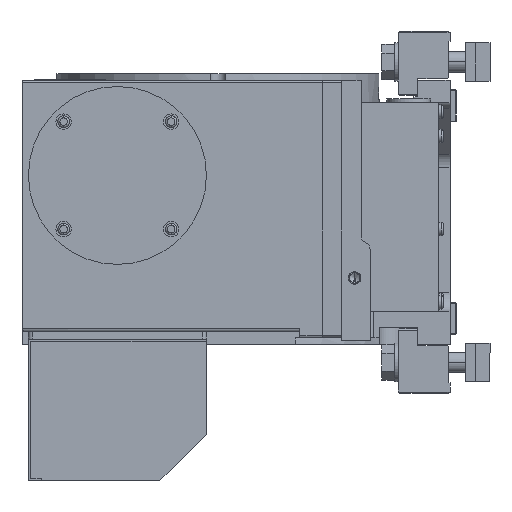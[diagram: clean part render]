
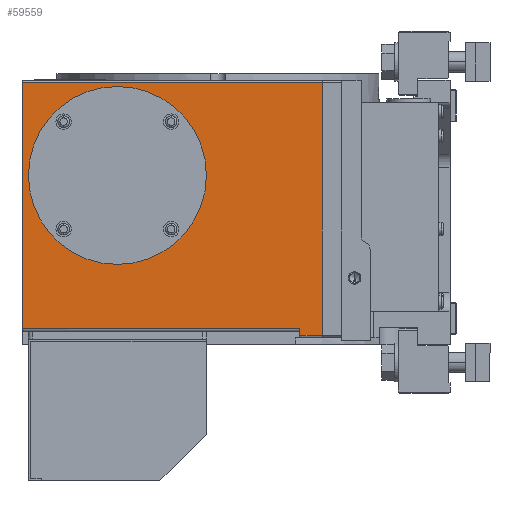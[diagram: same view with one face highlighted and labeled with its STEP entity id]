
A CAD part, left-side view. The second image highlights one B-rep face of the part: STEP entity #59559.
In plain terms, the highlighted planar face has unit normal (-1, 0, 0).
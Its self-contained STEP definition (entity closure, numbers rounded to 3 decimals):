
#628 = PLANE ( 'NONE',  #109375 ) ;
#1742 = ORIENTED_EDGE ( 'NONE', *, *, #90467, .F. ) ;
#3773 = VECTOR ( 'NONE', #64714, 1000. ) ;
#3989 = VECTOR ( 'NONE', #18380, 1000. ) ;
#4467 = CARTESIAN_POINT ( 'NONE',  ( -255., 17.5, -193. ) ) ;
#4789 = DIRECTION ( 'NONE',  ( 0., 0., 1. ) ) ;
#5139 = CARTESIAN_POINT ( 'NONE',  ( -255., 159., -74. ) ) ;
#6778 = LINE ( 'NONE', #97980, #3989 ) ;
#10075 = CARTESIAN_POINT ( 'NONE',  ( -255., 0., -198. ) ) ;
#13833 = ORIENTED_EDGE ( 'NONE', *, *, #44938, .T. ) ;
#14060 = DIRECTION ( 'NONE',  ( 0., 0., 1. ) ) ;
#14464 = CARTESIAN_POINT ( 'NONE',  ( -255., 233., -193. ) ) ;
#18380 = DIRECTION ( 'NONE',  ( 0., -1., 0. ) ) ;
#18910 = LINE ( 'NONE', #48987, #84172 ) ;
#19928 = EDGE_LOOP ( 'NONE', ( #33732, #96472, #1742, #28611, #37802, #13833 ) ) ;
#22911 = AXIS2_PLACEMENT_3D ( 'NONE', #5139, #67154, #14060 ) ;
#24402 = EDGE_LOOP ( 'NONE', ( #73351, #76990 ) ) ;
#24582 = LINE ( 'NONE', #55839, #3773 ) ;
#27713 = CARTESIAN_POINT ( 'NONE',  ( -255., 17.5, -193. ) ) ;
#28611 = ORIENTED_EDGE ( 'NONE', *, *, #102826, .T. ) ;
#33113 = DIRECTION ( 'NONE',  ( 0., 0., 1. ) ) ;
#33261 = FACE_OUTER_BOUND ( 'NONE', #19928, .T. ) ;
#33732 = ORIENTED_EDGE ( 'NONE', *, *, #55188, .T. ) ;
#35755 = EDGE_CURVE ( 'NONE', #72568, #64517, #24582, .T. ) ;
#36212 = VERTEX_POINT ( 'NONE', #81793 ) ;
#36707 = DIRECTION ( 'NONE',  ( 0., -1., 0. ) ) ;
#37802 = ORIENTED_EDGE ( 'NONE', *, *, #59976, .F. ) ;
#44938 = EDGE_CURVE ( 'NONE', #36212, #102225, #6778, .T. ) ;
#45259 = DIRECTION ( 'NONE',  ( 0., 0., -1. ) ) ;
#45520 = VECTOR ( 'NONE', #61383, 1000. ) ;
#45718 = CARTESIAN_POINT ( 'NONE',  ( -255., 159., -20. ) ) ;
#47097 = DIRECTION ( 'NONE',  ( -1., 0., 0. ) ) ;
#48987 = CARTESIAN_POINT ( 'NONE',  ( -255., 0., 0. ) ) ;
#50791 = VERTEX_POINT ( 'NONE', #4467 ) ;
#51126 = CARTESIAN_POINT ( 'NONE',  ( -255., 233., -2. ) ) ;
#53970 = CARTESIAN_POINT ( 'NONE',  ( -255., 159., -128. ) ) ;
#55188 = EDGE_CURVE ( 'NONE', #102225, #72568, #18910, .T. ) ;
#55839 = CARTESIAN_POINT ( 'NONE',  ( -255., 17.5, -2. ) ) ;
#56907 = VERTEX_POINT ( 'NONE', #45718 ) ;
#59559 = ADVANCED_FACE ( 'NONE', ( #101413, #33261 ), #628, .F. ) ;
#59976 = EDGE_CURVE ( 'NONE', #36212, #50791, #71834, .T. ) ;
#61383 = DIRECTION ( 'NONE',  ( 0., 0., 1. ) ) ;
#63546 = EDGE_CURVE ( 'NONE', #81846, #56907, #69312, .T. ) ;
#64517 = VERTEX_POINT ( 'NONE', #51126 ) ;
#64714 = DIRECTION ( 'NONE',  ( 0., 1., 0. ) ) ;
#67154 = DIRECTION ( 'NONE',  ( -1., 0., 0. ) ) ;
#68124 = AXIS2_PLACEMENT_3D ( 'NONE', #100350, #47097, #109277 ) ;
#69312 = CIRCLE ( 'NONE', #68124, 54. ) ;
#71834 = LINE ( 'NONE', #78923, #45520 ) ;
#72568 = VERTEX_POINT ( 'NONE', #88839 ) ;
#73351 = ORIENTED_EDGE ( 'NONE', *, *, #92010, .F. ) ;
#76990 = ORIENTED_EDGE ( 'NONE', *, *, #63546, .F. ) ;
#77350 = CARTESIAN_POINT ( 'NONE',  ( -255., 233., 0. ) ) ;
#78923 = CARTESIAN_POINT ( 'NONE',  ( -255., 17.5, 0. ) ) ;
#79963 = LINE ( 'NONE', #27713, #103644 ) ;
#81793 = CARTESIAN_POINT ( 'NONE',  ( -255., 17.5, -198. ) ) ;
#81846 = VERTEX_POINT ( 'NONE', #53970 ) ;
#83795 = VERTEX_POINT ( 'NONE', #14464 ) ;
#84172 = VECTOR ( 'NONE', #4789, 1000. ) ;
#84583 = VECTOR ( 'NONE', #33113, 1000. ) ;
#86160 = CIRCLE ( 'NONE', #22911, 54. ) ;
#88839 = CARTESIAN_POINT ( 'NONE',  ( -255., 0., -2. ) ) ;
#89499 = CARTESIAN_POINT ( 'NONE',  ( -255., 17.5, 0. ) ) ;
#90467 = EDGE_CURVE ( 'NONE', #83795, #64517, #111073, .T. ) ;
#92010 = EDGE_CURVE ( 'NONE', #56907, #81846, #86160, .T. ) ;
#96472 = ORIENTED_EDGE ( 'NONE', *, *, #35755, .T. ) ;
#97980 = CARTESIAN_POINT ( 'NONE',  ( -255., 17.5, -198. ) ) ;
#98459 = DIRECTION ( 'NONE',  ( 1., 0., 0. ) ) ;
#100350 = CARTESIAN_POINT ( 'NONE',  ( -255., 159., -74. ) ) ;
#101413 = FACE_BOUND ( 'NONE', #24402, .T. ) ;
#102225 = VERTEX_POINT ( 'NONE', #10075 ) ;
#102826 = EDGE_CURVE ( 'NONE', #83795, #50791, #79963, .T. ) ;
#103644 = VECTOR ( 'NONE', #36707, 1000. ) ;
#109277 = DIRECTION ( 'NONE',  ( 0., 0., 1. ) ) ;
#109375 = AXIS2_PLACEMENT_3D ( 'NONE', #89499, #98459, #45259 ) ;
#111073 = LINE ( 'NONE', #77350, #84583 ) ;
